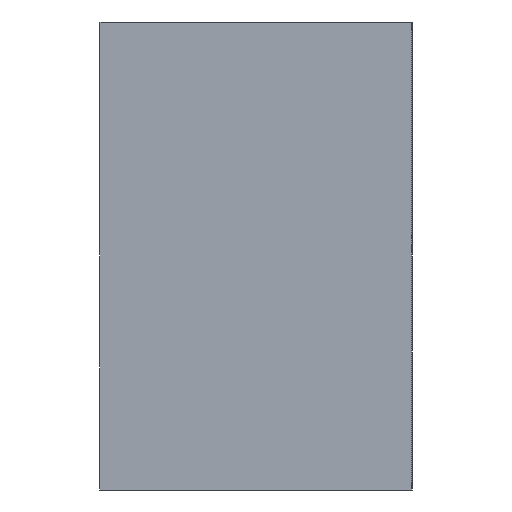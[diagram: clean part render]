
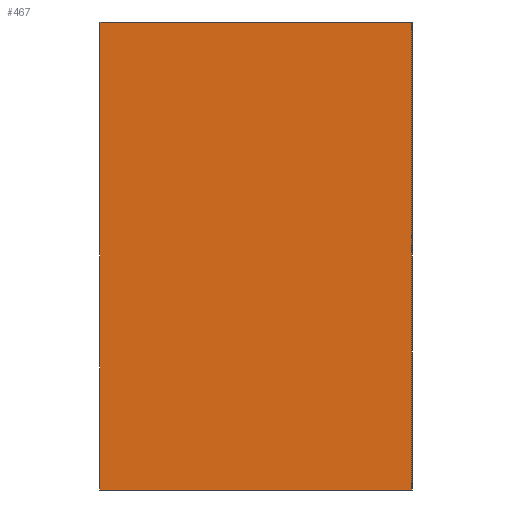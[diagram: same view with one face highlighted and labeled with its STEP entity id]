
A CAD part, left-side view. The second image highlights one B-rep face of the part: STEP entity #467.
In plain terms, the highlighted planar face has unit normal (-1, 0, 0).
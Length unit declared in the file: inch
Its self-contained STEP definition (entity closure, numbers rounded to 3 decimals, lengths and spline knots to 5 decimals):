
#6 = CARTESIAN_POINT ( 'NONE',  ( -4.75, 0., -0.375 ) ) ;
#31 = CARTESIAN_POINT ( 'NONE',  ( -4.75, 0.5, -0.375 ) ) ;
#69 = PLANE ( 'NONE',  #1113 ) ;
#94 = DIRECTION ( 'NONE',  ( 0., -1., 0. ) ) ;
#114 = DIRECTION ( 'NONE',  ( 0., 0., 1. ) ) ;
#120 = EDGE_LOOP ( 'NONE', ( #488, #947, #681, #1130 ) ) ;
#172 = EDGE_CURVE ( 'NONE', #946, #759, #825, .T. ) ;
#200 = VECTOR ( 'NONE', #766, 39.37008 ) ;
#218 = CARTESIAN_POINT ( 'NONE',  ( -4.75, 0., 0.375 ) ) ;
#272 = DIRECTION ( 'NONE',  ( 0., 0., -1. ) ) ;
#339 = CARTESIAN_POINT ( 'NONE',  ( -4.75, 0.5, 0.375 ) ) ;
#341 = CARTESIAN_POINT ( 'NONE',  ( -4.75, 0.5, 0.375 ) ) ;
#392 = CARTESIAN_POINT ( 'NONE',  ( -4.75, 0., -0.375 ) ) ;
#398 = CARTESIAN_POINT ( 'NONE',  ( -4.75, 0.5, -0.375 ) ) ;
#407 = EDGE_CURVE ( 'NONE', #845, #421, #912, .T. ) ;
#417 = FACE_OUTER_BOUND ( 'NONE', #120, .T. ) ;
#421 = VERTEX_POINT ( 'NONE', #392 ) ;
#467 = ADVANCED_FACE ( 'NONE', ( #417 ), #69, .F. ) ;
#488 = ORIENTED_EDGE ( 'NONE', *, *, #622, .T. ) ;
#515 = CARTESIAN_POINT ( 'NONE',  ( -4.75, 0.5, -0.375 ) ) ;
#525 = DIRECTION ( 'NONE',  ( 0., -1., 0. ) ) ;
#622 = EDGE_CURVE ( 'NONE', #421, #759, #745, .T. ) ;
#681 = ORIENTED_EDGE ( 'NONE', *, *, #1105, .F. ) ;
#745 = LINE ( 'NONE', #6, #200 ) ;
#759 = VERTEX_POINT ( 'NONE', #218 ) ;
#766 = DIRECTION ( 'NONE',  ( 0., 0., 1. ) ) ;
#802 = DIRECTION ( 'NONE',  ( 1., 0., 0. ) ) ;
#825 = LINE ( 'NONE', #341, #956 ) ;
#845 = VERTEX_POINT ( 'NONE', #515 ) ;
#912 = LINE ( 'NONE', #31, #1006 ) ;
#935 = VECTOR ( 'NONE', #114, 39.37008 ) ;
#946 = VERTEX_POINT ( 'NONE', #339 ) ;
#947 = ORIENTED_EDGE ( 'NONE', *, *, #172, .F. ) ;
#956 = VECTOR ( 'NONE', #94, 39.37008 ) ;
#982 = CARTESIAN_POINT ( 'NONE',  ( -4.75, 0.5, -0.375 ) ) ;
#988 = LINE ( 'NONE', #982, #935 ) ;
#1006 = VECTOR ( 'NONE', #525, 39.37008 ) ;
#1105 = EDGE_CURVE ( 'NONE', #845, #946, #988, .T. ) ;
#1113 = AXIS2_PLACEMENT_3D ( 'NONE', #398, #802, #272 ) ;
#1130 = ORIENTED_EDGE ( 'NONE', *, *, #407, .T. ) ;
